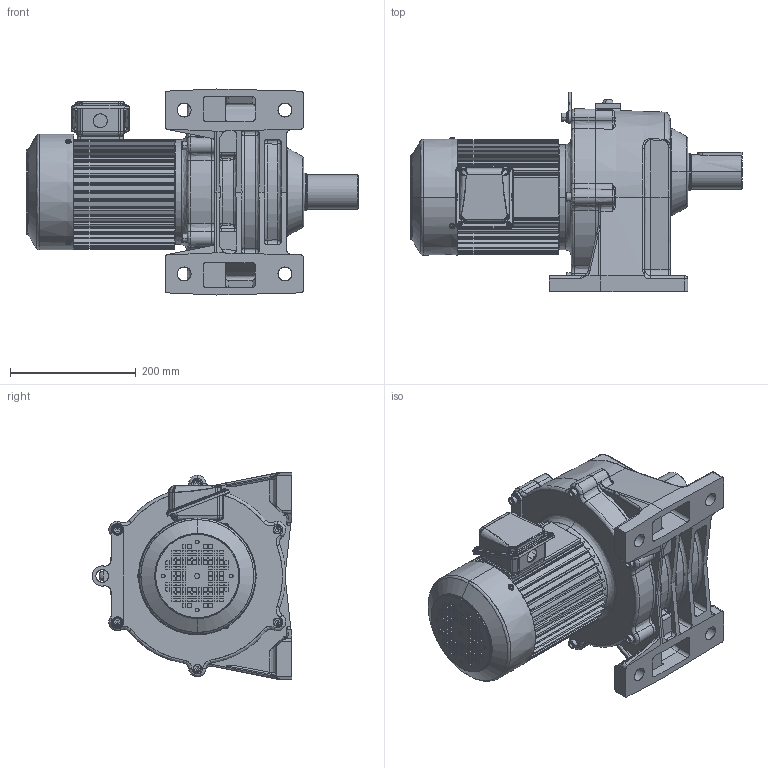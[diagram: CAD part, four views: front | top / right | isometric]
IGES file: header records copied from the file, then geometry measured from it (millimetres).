
Start section: SolidWorks IGES file using analytic representation for surfaces
Global section: file name: \\100.100.100.8\1_共有作業フォルダ\1-5_３Ｄデータ\solidworks\personal-folder\H.Nagayama\SGP1外形_075~370\P1(3D)_075~370\igs\TML2-15H-(100~160).IGS; native system: SolidWorks 2018; preprocessor: SolidWorks 2018; author: user; date: 210309.155605; units: millimetre
Bounding box: 527 x 316.87 x 327 mm (x, y, z)
Surface area: 982988.5 mm2 (no closed solid volume)
Topology: 0 solids, 0 shells, 2534 faces, 29155 edges, 29088 vertices
Faces by surface type: bspline 1316, revolution 1218
